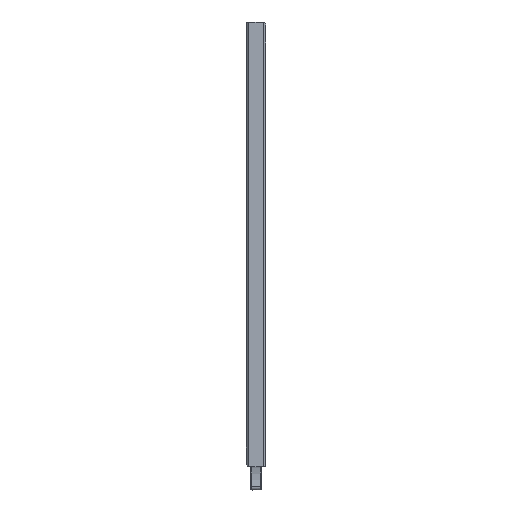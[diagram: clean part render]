
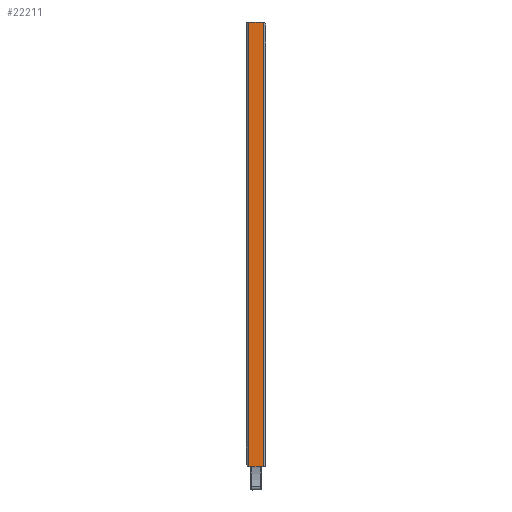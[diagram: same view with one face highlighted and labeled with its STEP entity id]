
A CAD part, left-side view. The second image highlights one B-rep face of the part: STEP entity #22211.
In plain terms, the highlighted planar face has unit normal (-1, 0, 0).
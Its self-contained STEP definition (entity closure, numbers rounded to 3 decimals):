
#1085 = ORIENTED_EDGE ( 'NONE', *, *, #20183, .F. ) ;
#2781 = CARTESIAN_POINT ( 'NONE',  ( -25.35, 7.575, -225. ) ) ;
#2847 = DIRECTION ( 'NONE',  ( 0., 1., 0. ) ) ;
#3405 = VECTOR ( 'NONE', #18969, 1000. ) ;
#3478 = ORIENTED_EDGE ( 'NONE', *, *, #19782, .F. ) ;
#4614 = CARTESIAN_POINT ( 'NONE',  ( -25.35, -7.575, 225. ) ) ;
#4623 = AXIS2_PLACEMENT_3D ( 'NONE', #10167, #6684, #2847 ) ;
#4790 = CARTESIAN_POINT ( 'NONE',  ( -25.35, -7.575, 225. ) ) ;
#4877 = VECTOR ( 'NONE', #14455, 1000. ) ;
#4980 = CARTESIAN_POINT ( 'NONE',  ( -25.35, 7.575, 225. ) ) ;
#5515 = EDGE_CURVE ( 'NONE', #16636, #14828, #17808, .T. ) ;
#6467 = LINE ( 'NONE', #4614, #8546 ) ;
#6555 = FACE_OUTER_BOUND ( 'NONE', #18986, .T. ) ;
#6684 = DIRECTION ( 'NONE',  ( 1., 0., 0. ) ) ;
#7434 = CARTESIAN_POINT ( 'NONE',  ( -25.35, 7.575, -225. ) ) ;
#8064 = LINE ( 'NONE', #19343, #3405 ) ;
#8428 = PLANE ( 'NONE',  #4623 ) ;
#8546 = VECTOR ( 'NONE', #10319, 1000. ) ;
#9851 = ORIENTED_EDGE ( 'NONE', *, *, #5515, .T. ) ;
#10167 = CARTESIAN_POINT ( 'NONE',  ( -25.35, 7.575, 225. ) ) ;
#10319 = DIRECTION ( 'NONE',  ( 0., 0., -1. ) ) ;
#11809 = VERTEX_POINT ( 'NONE', #11833 ) ;
#11833 = CARTESIAN_POINT ( 'NONE',  ( -25.35, -7.575, -225. ) ) ;
#12134 = VECTOR ( 'NONE', #17088, 1000. ) ;
#13818 = EDGE_CURVE ( 'NONE', #14828, #11809, #16850, .T. ) ;
#13921 = ORIENTED_EDGE ( 'NONE', *, *, #13818, .T. ) ;
#14455 = DIRECTION ( 'NONE',  ( 0., 0., -1. ) ) ;
#14469 = VERTEX_POINT ( 'NONE', #4790 ) ;
#14828 = VERTEX_POINT ( 'NONE', #2781 ) ;
#16636 = VERTEX_POINT ( 'NONE', #4980 ) ;
#16850 = LINE ( 'NONE', #7434, #12134 ) ;
#17088 = DIRECTION ( 'NONE',  ( 0., -1., 0. ) ) ;
#17808 = LINE ( 'NONE', #21899, #4877 ) ;
#18969 = DIRECTION ( 'NONE',  ( 0., -1., 0. ) ) ;
#18986 = EDGE_LOOP ( 'NONE', ( #13921, #3478, #1085, #9851 ) ) ;
#19343 = CARTESIAN_POINT ( 'NONE',  ( -25.35, 7.575, 225. ) ) ;
#19782 = EDGE_CURVE ( 'NONE', #14469, #11809, #6467, .T. ) ;
#20183 = EDGE_CURVE ( 'NONE', #16636, #14469, #8064, .T. ) ;
#21899 = CARTESIAN_POINT ( 'NONE',  ( -25.35, 7.575, 225. ) ) ;
#22211 = ADVANCED_FACE ( 'NONE', ( #6555 ), #8428, .F. ) ;
